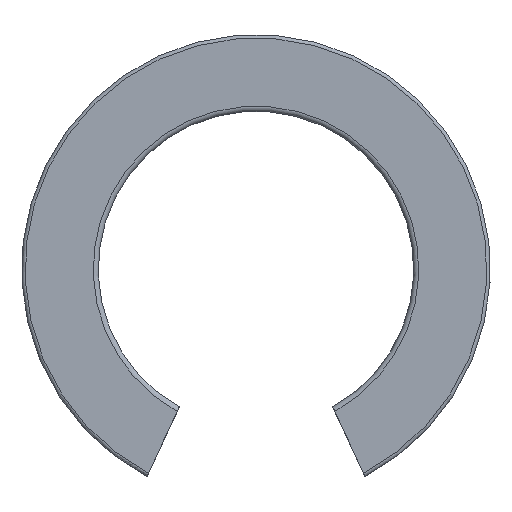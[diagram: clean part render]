
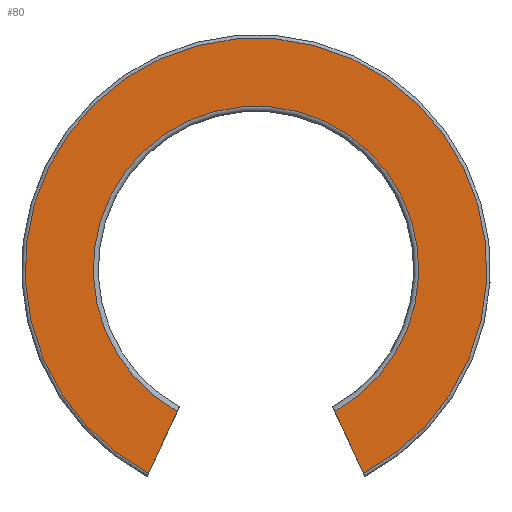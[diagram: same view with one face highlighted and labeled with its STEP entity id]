
A CAD part, left-side view. The second image highlights one B-rep face of the part: STEP entity #80.
In plain terms, the highlighted planar face has unit normal (-1, 0, 0).
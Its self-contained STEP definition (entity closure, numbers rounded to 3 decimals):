
#80=ADVANCED_FACE('',(#112),#113,.F.);
#112=FACE_OUTER_BOUND('',#164,.T.);
#113=PLANE('',#165);
#164=EDGE_LOOP('',(#261,#262,#263,#264));
#165=AXIS2_PLACEMENT_3D('',#265,#266,#267);
#261=ORIENTED_EDGE('',*,*,#428,.F.);
#262=ORIENTED_EDGE('',*,*,#454,.F.);
#263=ORIENTED_EDGE('',*,*,#462,.F.);
#264=ORIENTED_EDGE('',*,*,#463,.T.);
#265=CARTESIAN_POINT('',(0.0,25.619,0.0));
#266=DIRECTION('',(1.0,0.0,0.0));
#267=DIRECTION('',(0.0,0.0,-1.0));
#428=EDGE_CURVE('',#500,#501,#502,.T.);
#454=EDGE_CURVE('',#550,#500,#552,.T.);
#462=EDGE_CURVE('',#564,#550,#565,.T.);
#463=EDGE_CURVE('',#564,#501,#566,.T.);
#500=VERTEX_POINT('',#620);
#501=VERTEX_POINT('',#621);
#502=LINE('',#622,#623);
#550=VERTEX_POINT('',#710);
#552=CIRCLE('',#717,18.058);
#564=VERTEX_POINT('',#740);
#565=LINE('',#741,#742);
#566=CIRCLE('',#743,25.619);
#620=CARTESIAN_POINT('',(0.0,8.736,-15.804));
#621=CARTESIAN_POINT('',(0.0,11.937,-22.668));
#622=CARTESIAN_POINT('',(0.0,5.698,-9.289));
#623=VECTOR('',#820,1.0);
#710=CARTESIAN_POINT('',(0.0,-8.736,-15.804));
#717=AXIS2_PLACEMENT_3D('',#843,#844,#845);
#740=CARTESIAN_POINT('',(0.0,-11.937,-22.668));
#741=CARTESIAN_POINT('',(0.0,3.453,10.336));
#742=VECTOR('',#859,1.0);
#743=AXIS2_PLACEMENT_3D('',#860,#861,#862);
#820=DIRECTION('',(0.0,0.423,-0.906));
#843=CARTESIAN_POINT('',(0.0,0.0,0.0));
#844=DIRECTION('',(-1.0,0.0,0.0));
#845=DIRECTION('',(0.0,0.0,1.0));
#859=DIRECTION('',(0.0,0.423,0.906));
#860=CARTESIAN_POINT('',(0.0,0.0,0.0));
#861=DIRECTION('',(-1.0,0.0,0.0));
#862=DIRECTION('',(0.0,0.0,1.0));
